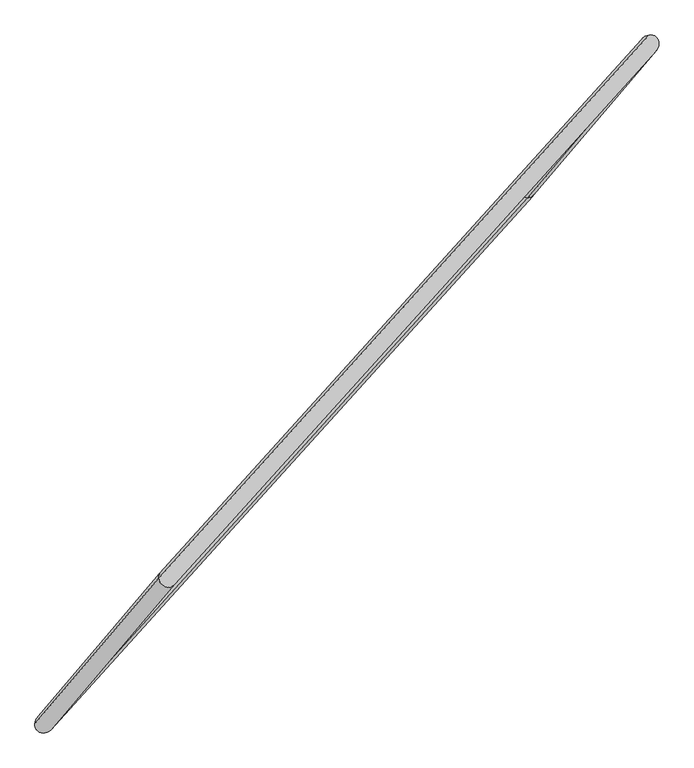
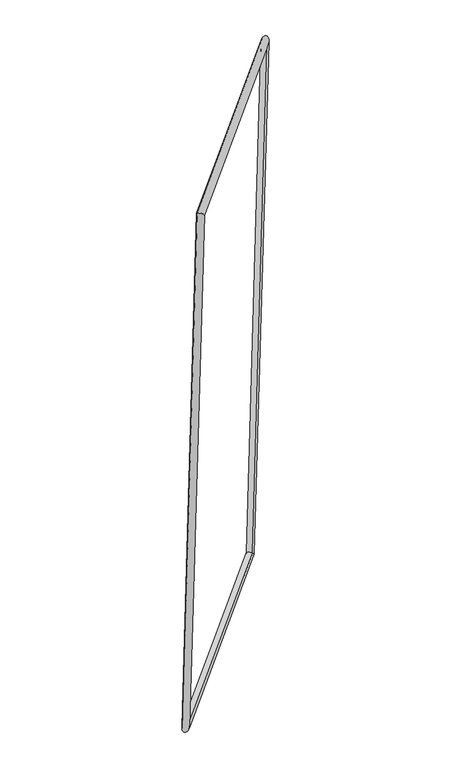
"""IFC4 building model written with IfcOpenShell, lengths in millimetres: proxy geometry, Família5 : Família5."""

from ifc_helpers import new_model, si_unit, frame, origin, place, context, project, spatial, ellipse_curve, source, transform, mapped, element, save
from ifc_brep_helpers import cylinder_surface, advanced_brep


def generic_models_fc01901a(model_context):
    return source(origin(), model_context, "Body", "AdvancedBrep", [
        advanced_brep(
        [(-1399.6441327, -1450.8560161, 26.9433681), (-1484.9611358, -1457.0998169, -26.9433681), (635.9612936, 891.0643013, -26.9433681), (648.6439749, 816.8915317, 26.9433681), (1171.4829095, 1519.9317769, 5770.7186461), (1174.256307, 1434.122453, 5717.3255324), (-949.4395198, -828.2323413, 5770.7186461), (-874.0318007, -833.6250947, 5717.3255324)],
        [
            (0, 1, ellipse_curve(frame((-1442.3026343, -1453.9779165, 0.0), z_axis=(0.4416151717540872, 0.48424520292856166, -0.75530300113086), x_axis=(-0.5042511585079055, -0.5623439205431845, -0.6553625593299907)), 61.0343902, 40.0)),
            (1, 2),
            (2, 3, ellipse_curve(frame((642.3026343, 853.9779165, 0.0), z_axis=(-0.5042511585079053, -0.5623439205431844, -0.655362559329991), x_axis=(-0.4416151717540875, -0.48424520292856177, 0.7553030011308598)), 52.9584208, 40.0)),
            (3, 0),
            (1, 0, ellipse_curve(frame((-1442.3026343, -1453.9779165, 0.0), z_axis=(0.4416151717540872, 0.48424520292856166, -0.75530300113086), x_axis=(-0.5042511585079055, -0.5623439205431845, -0.6553625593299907)), 61.0343902, 40.0)),
            (3, 2, ellipse_curve(frame((642.3026343, 853.9779165, 0.0), z_axis=(-0.5042511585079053, -0.5623439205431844, -0.655362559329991), x_axis=(-0.4416151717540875, -0.48424520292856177, 0.7553030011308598)), 52.9584208, 40.0)),
            (2, 4),
            (4, 5, ellipse_curve(frame((1172.8696083, 1477.027115, 5744.0220892), z_axis=(0.44161517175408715, 0.4842452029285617, -0.75530300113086), x_axis=(-0.5042511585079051, -0.5623439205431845, -0.6553625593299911)), 61.0343902, 40.0)),
            (5, 3),
            (5, 4, ellipse_curve(frame((1172.8696083, 1477.027115, 5744.0220892), z_axis=(0.44161517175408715, 0.4842452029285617, -0.75530300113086), x_axis=(-0.5042511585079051, -0.5623439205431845, -0.6553625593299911)), 61.0343902, 40.0)),
            (4, 6),
            (6, 7, ellipse_curve(frame((-911.7356602, -830.928718, 5744.0220892), z_axis=(0.5042511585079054, 0.5623439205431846, 0.6553625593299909), x_axis=(0.4416151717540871, 0.48424520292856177, -0.7553030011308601)), 52.9584208, 40.0)),
            (7, 5),
            (7, 6, ellipse_curve(frame((-911.7356602, -830.928718, 5744.0220892), z_axis=(0.5042511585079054, 0.5623439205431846, 0.6553625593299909), x_axis=(0.4416151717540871, 0.48424520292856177, -0.7553030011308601)), 52.9584208, 40.0)),
            (6, 1),
            (0, 7),
        ],
        [
            cylinder_surface(frame((-1442.3026343, -1453.9779165, 0.0), z_axis=(-0.67028625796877, -0.7421026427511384, 0.0), x_axis=(-0.4998686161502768, 0.45149423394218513, 0.739110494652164)), 40.0),
            cylinder_surface(frame((642.3026343, 853.9779165, 0.0), z_axis=(-0.09144515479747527, -0.1073848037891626, -0.9900031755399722), x_axis=(-0.9902236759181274, -0.09535267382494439, 0.10180834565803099)), 40.0),
            cylinder_surface(frame((1172.8696083, 1477.027115, 5744.0220892), z_axis=(0.6702862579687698, 0.7421026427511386, 0.0), x_axis=(-0.4952896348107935, 0.44735837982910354, -0.7446869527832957)), 40.0),
            cylinder_surface(frame((-911.7356602, -830.928718, 5744.0220892), z_axis=(0.09144515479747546, 0.10738480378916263, 0.9900031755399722), x_axis=(-0.0049345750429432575, 0.9942052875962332, -0.10738480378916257)), 40.0),
        ],
        [
            (0, [[1, 2, 3, 4]]),
            (0, [[5, -4, 6, -2]]),
            (1, [[-3, 7, 8, 9]]),
            (1, [[-6, -9, 10, -7]]),
            (2, [[-8, 11, 12, 13]]),
            (2, [[-10, -13, 14, -11]]),
            (3, [[-12, 15, -1, 16]]),
            (3, [[-14, -16, -5, -15]]),
        ],
    ),
    ])


if __name__ == "__main__":
    model = new_model("IFC4")
    model_context = context("Model", 3, world=origin())
    ifc_project = project(units=[si_unit("LENGTHUNIT", "METRE", prefix="MILLI")], contexts=[model_context])
    site = spatial("IfcSite", under=ifc_project)
    building = spatial("IfcBuilding", under=site)
    placement = place(None, origin())
    generic_models_shape = generic_models_fc01901a(model_context)
    element("IfcBuildingElementProxy", 1, Name="Família5 : Família5", ObjectType="Família5 : Família5", at=placement, inside=building, context=model_context, shape_type="MappedRepresentation", body=[
        mapped(generic_models_shape, transform((0.0, 0.0, 0.0), x_axis=(1.0, 0.0, 0.0), y_axis=(0.0, 1.0, 0.0), z_axis=(0.0, 0.0, 1.0))),
    ])
    save(model, "model.ifc")
